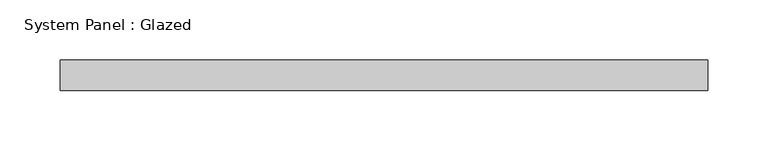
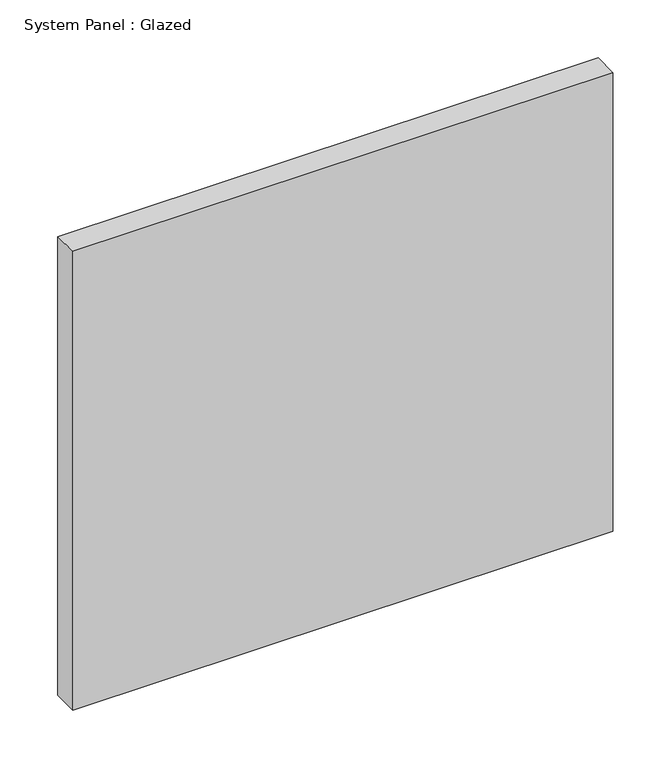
"""IFC4 building model written with IfcOpenShell, lengths in millimetres: plate geometry, System Panel : Glazed."""

from ifc_helpers import new_model, si_unit, origin, origin_with_axes, place, context, project, spatial, polyline, outline, extrude, source, transform, mapped, element, save


def system_panel_glazed_685ee558(model_context):
    return source(origin(), model_context, "Body", "SweptSolid", [
        extrude(outline(polyline([(268.8139645, -44.45), (-268.8139645, -44.45), (-268.8139645, -19.05), (268.8139645, -19.05), (268.8139645, -44.45)])), origin_with_axes(), (0.0, 0.0, 1.0), 482.6),
    ])


if __name__ == "__main__":
    model = new_model("IFC4")
    model_context = context("Model", 3, world=origin())
    ifc_project = project(units=[si_unit("LENGTHUNIT", "METRE", prefix="MILLI")], contexts=[model_context])
    site = spatial("IfcSite", under=ifc_project)
    building = spatial("IfcBuilding", under=site)
    placement = place(None, origin())
    system_panel_glazed_shape = system_panel_glazed_685ee558(model_context)
    element("IfcPlate", 1, ObjectType="System Panel : Glazed", at=placement, inside=building, context=model_context, shape_type="MappedRepresentation", body=[
        mapped(system_panel_glazed_shape, transform((0.0, 0.0, 0.0), x_axis=(1.0, 0.0, 0.0), y_axis=(0.0, 1.0, 0.0), z_axis=(0.0, 0.0, 1.0))),
    ])
    save(model, "model.ifc")
